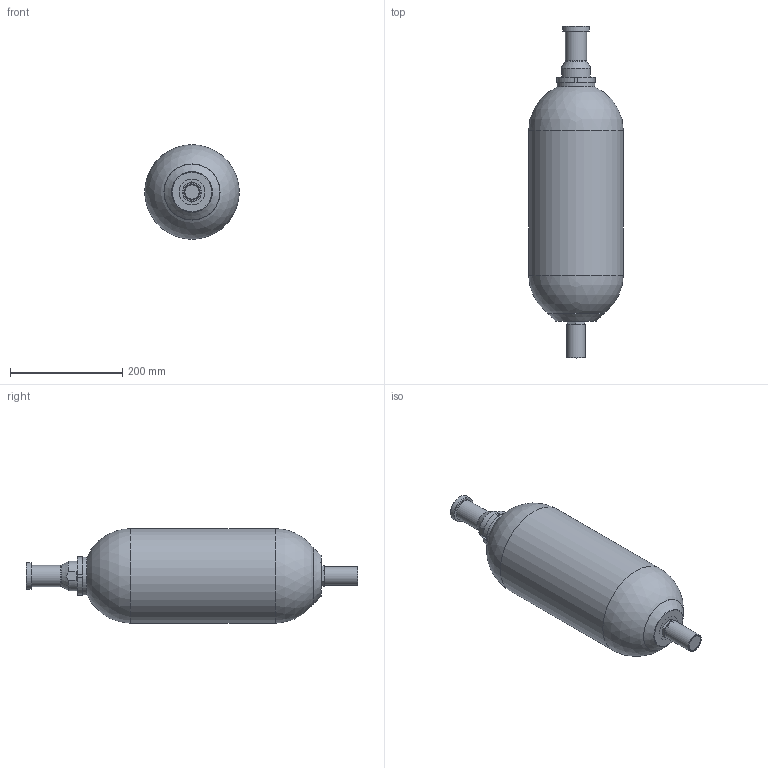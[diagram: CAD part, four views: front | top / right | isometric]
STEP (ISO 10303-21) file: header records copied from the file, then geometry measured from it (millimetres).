
FILE_DESCRIPTION((''),'2;1');
FILE_NAME('F:\STEP\ALLEGE\GAMME_EHVF_350&330&250bar\EHVF_6L_350_90.stp','2011-03-04T12:04:53',('laurent.simeon'),(''),'Autodesk Inventor 2011','Autodesk Inventor 2011','');
FILE_SCHEMA(('AUTOMOTIVE_DESIGN { 1 0 10303 214 1 1 1 1 }'));
Length unit declared in the file: millimetre
Products named in the file (39): EHVF_6L_350_90; CA108564-00190; BC108585-00220; BE100016-00200; BM108584-00200; CB108583-00200; EC100987-00200; EC102958-00200; BP102851-00200; BOUCHON DE PROTECTION; BOUCHON PLASTIQUE; VA108479-01626; VA108473-01626; VA108439-01600; VA108437-01600; PI108438-01600; RE100758-01200; JT104172-00023; JP102452-00026; ET106134-02600; BOUCHON DE VALVE; BO100759-02600; JP101164-00020; JOINT PLAT; PF108572-05200
Assembly tree (38 placements, depth 5):
  EHVF_6L_350_90
    CA108564-00190
      CA108564-00190
    BC108585-00220
      BE100016-00200
        BE100016-00200
      BM108584-00200
        CB108583-00200
          CB108583-00200
      EC100987-00200
        EC100987-00200
    EC102958-00200
      EC102958-00200
    BP102851-00200
      BOUCHON DE PROTECTION
      BOUCHON PLASTIQUE
    VA108479-01626
      VA108473-01626
        VA108439-01600
          VA108439-01600
        VA108437-01600
          VA108437-01600
        PI108438-01600
          PI108438-01600
        RE100758-01200
          RE100758-01200
        JT104172-00023
          JT104172-00023
        JP102452-00026
          JP102452-00026
        ET106134-02600
          ET106134-02600
      BOUCHON DE VALVE
        BO100759-02600
          BO100759-02600
        JP101164-00020
          JOINT PLAT
    PF108572-05200
      PF108572-05200
Bounding box: 168.3 x 590.9 x 168.3 mm (x, y, z)
Volume: 2163500 mm3; surface area: 510370.9 mm2
Topology: 23 solids, 23 shells, 677 faces, 1612 edges, 986 vertices
Faces by surface type: bspline 207, cylinder 183, plane 151, cone 75, torus 57, sphere 4
Full cylindrical faces by diameter (mm): 0.8 x1, 1.7 x1, 2 x1, 2.2 x1, 3.8 x1, 3.9 x1, 4.6 x1, 6.2 x1, 6.5 x1, 8 x1, 9 x3, 10 x1, 11 x6, 11.1 x1, 11.33 x1, 11.5 x1, 12.667 x1, 13 x1, 14.46 x1, 15.83 x1, 16 x2, 20.68 x1, 22 x2, 22.5 x1, 25 x1, 28.5 x2, 29.5 x1, 30.05 x1, 31 x1, 31.2 x1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
Entity records: 30055 total; most frequent: CARTESIAN_POINT 15421, ORIENTED_EDGE 2858, DIRECTION 2564, EDGE_CURVE 1429, AXIS2_PLACEMENT_3D 1128, VERTEX_POINT 928, EDGE_LOOP 877, FACE_OUTER_BOUND 676
